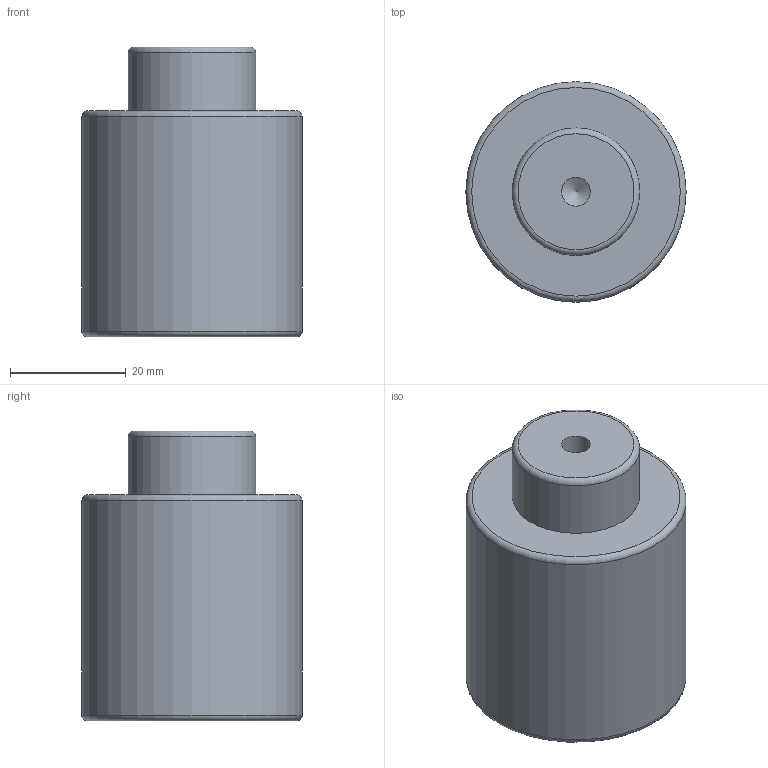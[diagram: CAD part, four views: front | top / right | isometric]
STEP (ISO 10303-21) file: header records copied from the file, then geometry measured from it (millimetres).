
FILE_DESCRIPTION(/* description */ (''),/* implementation_level */ '2;1');
FILE_NAME(/* name */ 'NV5-SMLX.38x10.stp',/* time_stamp */ '2018-08-31T16:08:36+02:00',/* author */ (''),/* organization */ (''),/* preprocessor_version */ 'ST-DEVELOPER v16',/* originating_system */ 'SIEMENS PLM Software NX 10.0',/* authorisation */ '');
FILE_SCHEMA (('AUTOMOTIVE_DESIGN { 1 0 10303 214 3 1 1 1 }'));
Length unit declared in the file: millimetre
Products named in the file (1): NV5-SMLX.38x10
Bounding box: 38 x 38 x 50 mm (x, y, z)
Volume: 47515.2 mm3; surface area: 8074.8 mm2
Topology: 1 solids, 1 shells, 12 faces, 24 edges, 15 vertices
Faces by surface type: cylinder 4, torus 3, plane 3, cone 2
Full cylindrical faces by diameter (mm): 5 x1, 6.8 x1, 22 x1, 38 x1
Entity records: 266 total; most frequent: DIRECTION 48, CARTESIAN_POINT 37, FACE_BOUND 24, AXIS2_PLACEMENT_3D 24, EDGE_LOOP 22, ORIENTED_EDGE 22, VERTEX_POINT 13, ADVANCED_FACE 12
